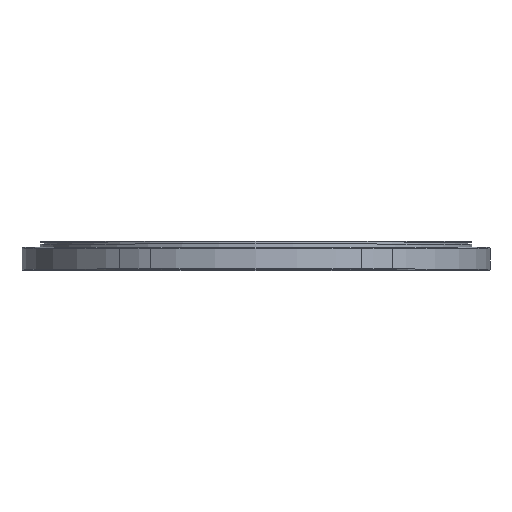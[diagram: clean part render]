
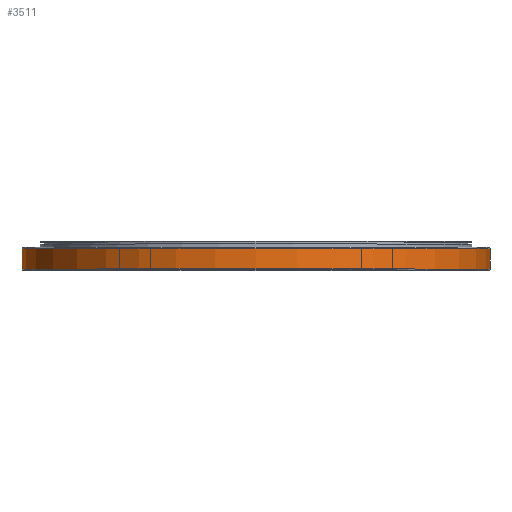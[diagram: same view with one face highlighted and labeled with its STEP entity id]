
A CAD part, top view. The second image highlights one B-rep face of the part: STEP entity #3511.
In plain terms, the highlighted cylindrical face has radius 457 mm (diameter 914 mm), a partial arc.
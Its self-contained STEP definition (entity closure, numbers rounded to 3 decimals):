
#1305=CARTESIAN_POINT('',(0.,42.5,0.));
#1306=DIRECTION('',(0.,-1.,0.));
#1307=DIRECTION('',(1.,0.,0.));
#1308=AXIS2_PLACEMENT_3D('',#1305,#1306,#1307);
#1310=CARTESIAN_POINT('',(0.,2.,0.));
#1311=DIRECTION('',(0.,-1.,0.));
#1312=DIRECTION('',(1.,0.,0.));
#1313=AXIS2_PLACEMENT_3D('',#1310,#1311,#1312);
#1330=DIRECTION('',(0.,-1.,0.));
#1331=VECTOR('',#1330,40.5);
#1332=CARTESIAN_POINT('',(-457.,42.5,0.));
#1333=LINE('',#1332,#1331);
#1339=DIRECTION('',(0.,-1.,0.));
#1340=VECTOR('',#1339,40.5);
#1341=CARTESIAN_POINT('',(457.,42.5,0.));
#1342=LINE('',#1341,#1340);
#1571=CARTESIAN_POINT('',(-457.,42.5,0.));
#1572=CARTESIAN_POINT('',(457.,42.5,0.));
#1573=VERTEX_POINT('',#1571);
#1574=VERTEX_POINT('',#1572);
#1583=CARTESIAN_POINT('',(-457.,2.,0.));
#1584=CARTESIAN_POINT('',(457.,2.,0.));
#1585=VERTEX_POINT('',#1583);
#1586=VERTEX_POINT('',#1584);
#3497=CARTESIAN_POINT('',(0.,0.,0.));
#3498=DIRECTION('',(0.,1.,0.));
#3499=DIRECTION('',(1.,0.,0.));
#3500=AXIS2_PLACEMENT_3D('',#3497,#3498,#3499);
#3501=CYLINDRICAL_SURFACE('',#3500,457.);
#3503=ORIENTED_EDGE('',*,*,#3502,.F.);
#3505=ORIENTED_EDGE('',*,*,#3504,.T.);
#3506=ORIENTED_EDGE('',*,*,#3491,.T.);
#3508=ORIENTED_EDGE('',*,*,#3507,.F.);
#3509=EDGE_LOOP('',(#3503,#3505,#3506,#3508));
#3510=FACE_OUTER_BOUND('',#3509,.F.);
#1309=CIRCLE('',#1308,457.);
#1314=CIRCLE('',#1313,457.);
#3491=EDGE_CURVE('',#1586,#1585,#1314,.T.);
#3502=EDGE_CURVE('',#1574,#1573,#1309,.T.);
#3504=EDGE_CURVE('',#1574,#1586,#1342,.T.);
#3507=EDGE_CURVE('',#1573,#1585,#1333,.T.);
#3511=ADVANCED_FACE('',(#3510),#3501,.T.);
